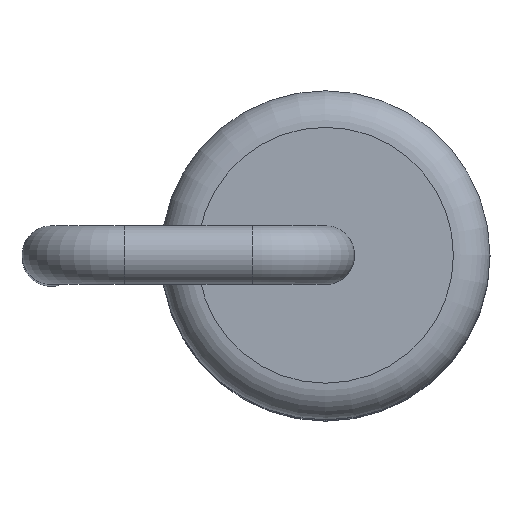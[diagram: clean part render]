
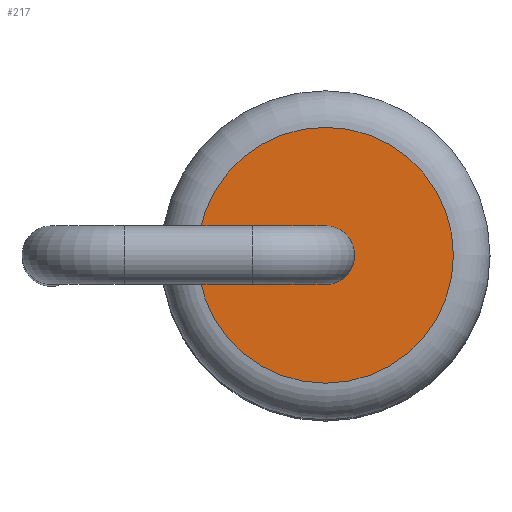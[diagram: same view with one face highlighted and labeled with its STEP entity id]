
A CAD part, top view. The second image highlights one B-rep face of the part: STEP entity #217.
In plain terms, the highlighted planar face has unit normal (0, 0, 1).
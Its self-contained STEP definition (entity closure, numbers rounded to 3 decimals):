
#217=ADVANCED_FACE('',(#386,#388),#390,.T.);
#386=FACE_BOUND('',#387,.T.);
#387=EDGE_LOOP('',(#470));
#388=FACE_BOUND('',#389,.T.);
#389=EDGE_LOOP('',(#471));
#390=PLANE('',#391);
#391=AXIS2_PLACEMENT_3D('',#392,#393,#394);
#392=CARTESIAN_POINT('',(0.,0.,5.75));
#393=DIRECTION('',(0.,0.,1.));
#394=DIRECTION('',(1.,0.,0.));
#470=ORIENTED_EDGE('',*,*,#494,.T.);
#471=ORIENTED_EDGE('',*,*,#495,.F.);
#494=EDGE_CURVE('',#523,#523,#524,.T.);
#495=EDGE_CURVE('',#525,#525,#526,.T.);
#523=VERTEX_POINT('',#592);
#524=CIRCLE('',#593,1.75);
#525=VERTEX_POINT('',#597);
#526=CIRCLE('',#598,0.4);
#592=CARTESIAN_POINT('',(1.75,0.,5.75));
#593=AXIS2_PLACEMENT_3D('',#594,#595,#596);
#594=CARTESIAN_POINT('',(0.,0.,5.75));
#595=DIRECTION('',(0.,0.,1.));
#596=DIRECTION('',(1.,0.,0.));
#597=CARTESIAN_POINT('',(0.,0.4,5.75));
#598=AXIS2_PLACEMENT_3D('',#599,#600,#601);
#599=CARTESIAN_POINT('',(0.,0.,5.75));
#600=DIRECTION('',(0.,0.,1.));
#601=DIRECTION('',(0.,1.,0.));
